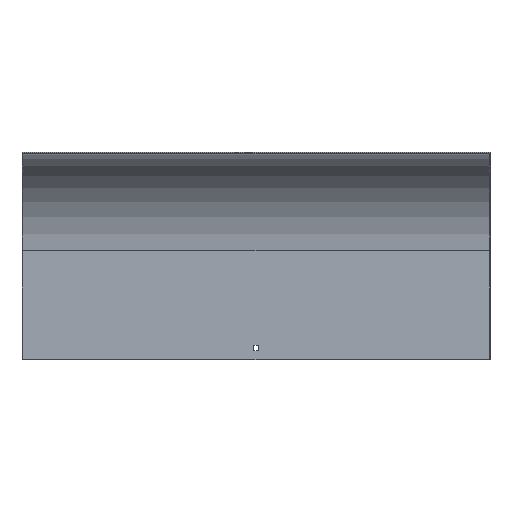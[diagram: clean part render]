
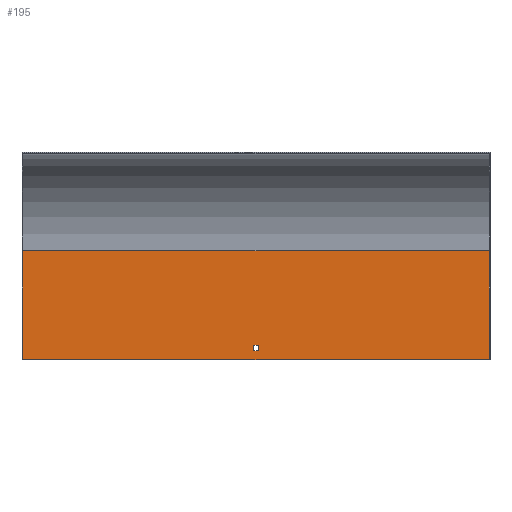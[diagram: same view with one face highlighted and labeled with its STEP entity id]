
A CAD part, top view. The second image highlights one B-rep face of the part: STEP entity #195.
In plain terms, the highlighted planar face has unit normal (0, 0, 1).
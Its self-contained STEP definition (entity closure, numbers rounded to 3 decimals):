
#11 = LINE ( 'NONE', #691, #395 ) ;
#12 = VECTOR ( 'NONE', #389, 1000. ) ;
#16 = EDGE_CURVE ( 'NONE', #52, #782, #784, .T. ) ;
#18 = DIRECTION ( 'NONE',  ( 0., -1., 0. ) ) ;
#33 = VERTEX_POINT ( 'NONE', #41 ) ;
#34 = DIRECTION ( 'NONE',  ( 0., 0., 1. ) ) ;
#36 = EDGE_CURVE ( 'NONE', #235, #806, #679, .T. ) ;
#41 = CARTESIAN_POINT ( 'NONE',  ( 3., -254.5, -265. ) ) ;
#47 = ORIENTED_EDGE ( 'NONE', *, *, #267, .T. ) ;
#52 = VERTEX_POINT ( 'NONE', #613 ) ;
#63 = LINE ( 'NONE', #860, #550 ) ;
#66 = AXIS2_PLACEMENT_3D ( 'NONE', #829, #34, #166 ) ;
#75 = EDGE_CURVE ( 'NONE', #112, #33, #159, .T. ) ;
#87 = CARTESIAN_POINT ( 'NONE',  ( 300., -126., -265. ) ) ;
#112 = VERTEX_POINT ( 'NONE', #411 ) ;
#123 = EDGE_CURVE ( 'NONE', #782, #806, #750, .T. ) ;
#141 = EDGE_CURVE ( 'NONE', #615, #112, #11, .T. ) ;
#145 = DIRECTION ( 'NONE',  ( 0., 1., 0. ) ) ;
#159 = LINE ( 'NONE', #284, #578 ) ;
#166 = DIRECTION ( 'NONE',  ( 0., -1., 0. ) ) ;
#195 = ADVANCED_FACE ( 'NONE', ( #573, #656 ), #310, .T. ) ;
#228 = DIRECTION ( 'NONE',  ( 1., 0., 0. ) ) ;
#231 = CARTESIAN_POINT ( 'NONE',  ( 300., -126., -265. ) ) ;
#235 = VERTEX_POINT ( 'NONE', #231 ) ;
#254 = ORIENTED_EDGE ( 'NONE', *, *, #141, .T. ) ;
#263 = ORIENTED_EDGE ( 'NONE', *, *, #795, .T. ) ;
#267 = EDGE_CURVE ( 'NONE', #414, #615, #438, .T. ) ;
#284 = CARTESIAN_POINT ( 'NONE',  ( 3., -126., -265. ) ) ;
#308 = CARTESIAN_POINT ( 'NONE',  ( 301., -126., -265. ) ) ;
#310 = PLANE ( 'NONE',  #66 ) ;
#313 = ORIENTED_EDGE ( 'NONE', *, *, #461, .T. ) ;
#315 = ORIENTED_EDGE ( 'NONE', *, *, #16, .F. ) ;
#328 = ORIENTED_EDGE ( 'NONE', *, *, #36, .T. ) ;
#331 = CARTESIAN_POINT ( 'NONE',  ( -3., -254.5, -265. ) ) ;
#333 = EDGE_LOOP ( 'NONE', ( #348, #315, #263, #328 ) ) ;
#335 = CARTESIAN_POINT ( 'NONE',  ( -300., -126., -265. ) ) ;
#348 = ORIENTED_EDGE ( 'NONE', *, *, #123, .F. ) ;
#363 = CARTESIAN_POINT ( 'NONE',  ( -3., -126., -265. ) ) ;
#389 = DIRECTION ( 'NONE',  ( -1., 0., 0. ) ) ;
#395 = VECTOR ( 'NONE', #228, 1000. ) ;
#411 = CARTESIAN_POINT ( 'NONE',  ( 3., -247.5, -265. ) ) ;
#414 = VERTEX_POINT ( 'NONE', #331 ) ;
#438 = LINE ( 'NONE', #363, #455 ) ;
#455 = VECTOR ( 'NONE', #711, 1000. ) ;
#461 = EDGE_CURVE ( 'NONE', #33, #414, #63, .T. ) ;
#462 = CARTESIAN_POINT ( 'NONE',  ( 301., -266., -265. ) ) ;
#466 = VECTOR ( 'NONE', #583, 1000. ) ;
#477 = DIRECTION ( 'NONE',  ( -1., 0., 0. ) ) ;
#489 = CARTESIAN_POINT ( 'NONE',  ( -300., -266., -265. ) ) ;
#535 = CARTESIAN_POINT ( 'NONE',  ( -3., -247.5, -265. ) ) ;
#550 = VECTOR ( 'NONE', #477, 1000. ) ;
#573 = FACE_OUTER_BOUND ( 'NONE', #333, .T. ) ;
#578 = VECTOR ( 'NONE', #18, 1000. ) ;
#583 = DIRECTION ( 'NONE',  ( -1., 0., 0. ) ) ;
#599 = EDGE_LOOP ( 'NONE', ( #313, #47, #254, #650 ) ) ;
#613 = CARTESIAN_POINT ( 'NONE',  ( 300., -266., -265. ) ) ;
#615 = VERTEX_POINT ( 'NONE', #535 ) ;
#619 = DIRECTION ( 'NONE',  ( 0., 1., 0. ) ) ;
#650 = ORIENTED_EDGE ( 'NONE', *, *, #75, .T. ) ;
#656 = FACE_BOUND ( 'NONE', #599, .T. ) ;
#679 = LINE ( 'NONE', #308, #466 ) ;
#691 = CARTESIAN_POINT ( 'NONE',  ( 301., -247.5, -265. ) ) ;
#701 = CARTESIAN_POINT ( 'NONE',  ( -300., -126., -265. ) ) ;
#711 = DIRECTION ( 'NONE',  ( 0., 1., 0. ) ) ;
#750 = LINE ( 'NONE', #701, #855 ) ;
#751 = LINE ( 'NONE', #87, #863 ) ;
#782 = VERTEX_POINT ( 'NONE', #489 ) ;
#784 = LINE ( 'NONE', #462, #12 ) ;
#795 = EDGE_CURVE ( 'NONE', #52, #235, #751, .T. ) ;
#806 = VERTEX_POINT ( 'NONE', #335 ) ;
#829 = CARTESIAN_POINT ( 'NONE',  ( 301., -126., -265. ) ) ;
#855 = VECTOR ( 'NONE', #145, 1000. ) ;
#860 = CARTESIAN_POINT ( 'NONE',  ( 301., -254.5, -265. ) ) ;
#863 = VECTOR ( 'NONE', #619, 1000. ) ;
